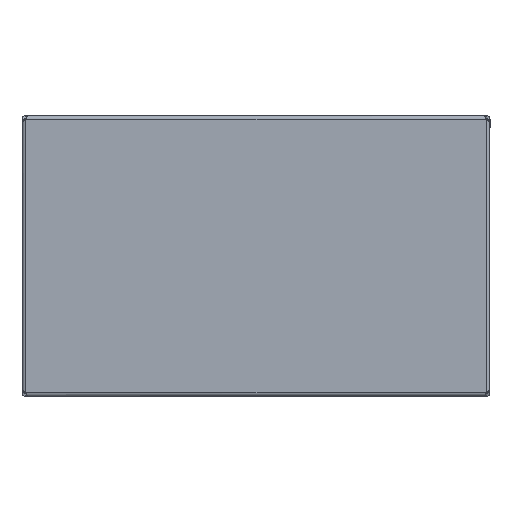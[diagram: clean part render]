
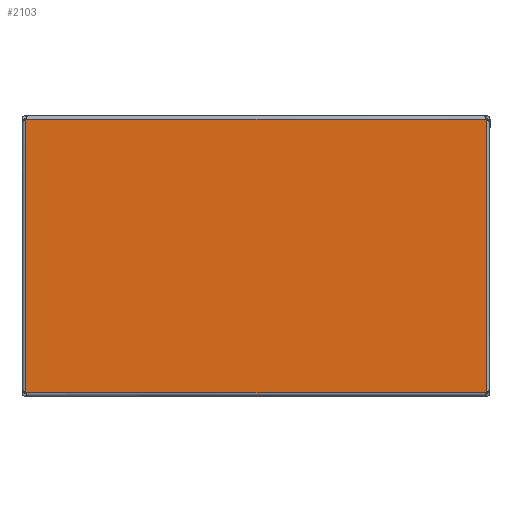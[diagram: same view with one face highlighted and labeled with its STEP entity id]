
A CAD part, front view. The second image highlights one B-rep face of the part: STEP entity #2103.
In plain terms, the highlighted planar face has unit normal (0, -1, 0).
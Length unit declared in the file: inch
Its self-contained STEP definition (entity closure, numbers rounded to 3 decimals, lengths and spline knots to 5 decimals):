
#15=DIRECTION('',(1.,0.,0.));
#16=VECTOR('',#15,19.66704);
#17=CARTESIAN_POINT('',(-9.83352,0.,-12.66504));
#18=LINE('',#17,#16);
#23=DIRECTION('',(0.,0.,1.));
#24=VECTOR('',#23,11.66698);
#25=CARTESIAN_POINT('',(-9.83352,0.,-12.66504));
#26=LINE('',#25,#24);
#30=DIRECTION('',(1.,0.,0.));
#31=VECTOR('',#30,19.66704);
#32=CARTESIAN_POINT('',(-9.83352,0.,-0.99806));
#33=LINE('',#32,#31);
#37=DIRECTION('',(0.,0.,1.));
#38=VECTOR('',#37,11.66698);
#39=CARTESIAN_POINT('',(9.83352,0.,-12.66504));
#40=LINE('',#39,#38);
#1844=CARTESIAN_POINT('',(-9.83352,0.,-12.66504));
#1845=CARTESIAN_POINT('',(-9.83352,0.,-0.99806));
#1846=VERTEX_POINT('',#1844);
#1847=VERTEX_POINT('',#1845);
#1860=CARTESIAN_POINT('',(9.83352,0.,-12.66504));
#1861=CARTESIAN_POINT('',(9.83352,0.,-0.99806));
#1862=VERTEX_POINT('',#1860);
#1863=VERTEX_POINT('',#1861);
#2088=CARTESIAN_POINT('',(-18.9548,0.,0.));
#2089=DIRECTION('',(0.,-1.,0.));
#2090=DIRECTION('',(1.,0.,0.));
#2091=AXIS2_PLACEMENT_3D('',#2088,#2089,#2090);
#2092=PLANE('',#2091);
#2094=ORIENTED_EDGE('',*,*,#2093,.F.);
#2096=ORIENTED_EDGE('',*,*,#2095,.T.);
#2098=ORIENTED_EDGE('',*,*,#2097,.T.);
#2100=ORIENTED_EDGE('',*,*,#2099,.F.);
#2101=EDGE_LOOP('',(#2094,#2096,#2098,#2100));
#2102=FACE_OUTER_BOUND('',#2101,.F.);
#2093=EDGE_CURVE('',#1846,#1862,#18,.T.);
#2095=EDGE_CURVE('',#1846,#1847,#26,.T.);
#2097=EDGE_CURVE('',#1847,#1863,#33,.T.);
#2099=EDGE_CURVE('',#1862,#1863,#40,.T.);
#2103=ADVANCED_FACE('',(#2102),#2092,.T.);
